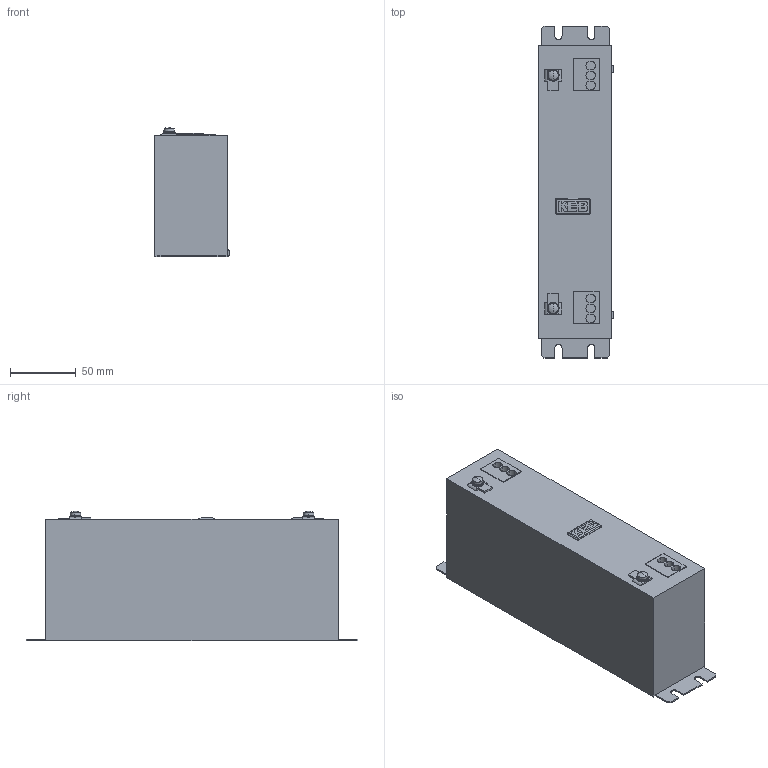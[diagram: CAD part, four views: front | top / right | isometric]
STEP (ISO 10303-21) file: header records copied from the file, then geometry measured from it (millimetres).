
FILE_DESCRIPTION (( 'STEP AP214' ), '1' );
FILE_NAME ('00E6X01-0014.STEP', '2023-07-10T14:05:38', ( '' ), ( '' ), 'SwSTEP 2.0', 'SolidWorks 2022', '' );
FILE_SCHEMA (( 'AUTOMOTIVE_DESIGN' ));
Length unit declared in the file: millimetre
Products named in the file (1): 00E6X01-0014
Bounding box: 56.7 x 252 x 98.1 mm (x, y, z)
Volume: 1125258 mm3; surface area: 79454.7 mm2
Topology: 1 solids, 1 shells, 194 faces, 510 edges, 337 vertices
Faces by surface type: plane 122, cylinder 51, bspline 13, sphere 4, cone 4
Entity records: 6891 total; most frequent: CARTESIAN_POINT 1935, ORIENTED_EDGE 1020, DIRECTION 902, EDGE_CURVE 510, VERTEX_POINT 337, LINE 302, VECTOR 302, AXIS2_PLACEMENT_3D 300
